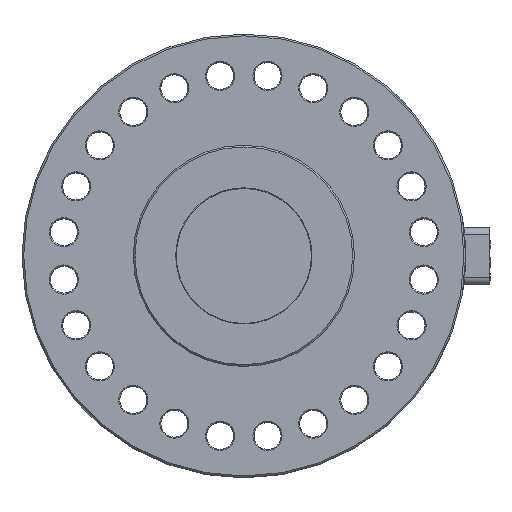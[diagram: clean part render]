
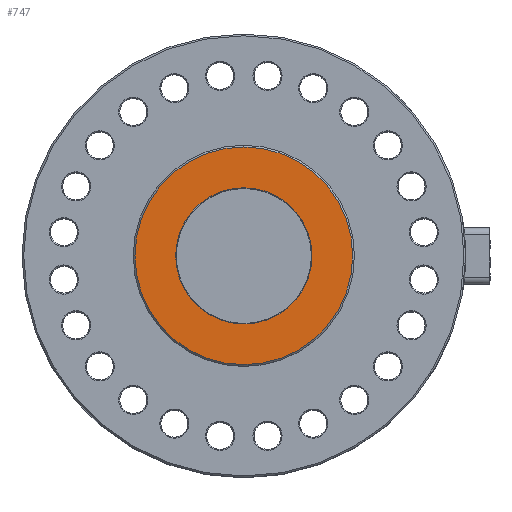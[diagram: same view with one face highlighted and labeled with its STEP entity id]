
A CAD part, top view. The second image highlights one B-rep face of the part: STEP entity #747.
In plain terms, the highlighted planar face has unit normal (0, 0, 1).
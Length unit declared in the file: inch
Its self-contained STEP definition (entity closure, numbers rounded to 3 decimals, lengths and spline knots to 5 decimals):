
#423 = ORIENTED_EDGE ( 'NONE', *, *, #4104, .F. ) ;
#484 = EDGE_LOOP ( 'NONE', ( #10435, #9887 ) ) ;
#747 = ADVANCED_FACE ( 'NONE', ( #7501, #7502 ), #7503, .F. ) ;
#789 = CARTESIAN_POINT ( 'NONE',  ( 0., -3.8035, 0.5 ) ) ;
#912 = CARTESIAN_POINT ( 'NONE',  ( 0., 3.8035, 0.5 ) ) ;
#1151 = ORIENTED_EDGE ( 'NONE', *, *, #6691, .F. ) ;
#1471 = CIRCLE ( 'NONE', #1472, 3.8035 ) ;
#1472 = AXIS2_PLACEMENT_3D ( 'NONE', #1473, #1474, #1475 ) ;
#1473 = CARTESIAN_POINT ( 'NONE',  ( 0., 0., 0.5 ) ) ;
#1474 = DIRECTION ( 'NONE',  ( 0., 0., -1. ) ) ;
#1475 = DIRECTION ( 'NONE',  ( 0., 1., 0. ) ) ;
#1703 = EDGE_LOOP ( 'NONE', ( #1151, #423 ) ) ;
#1953 = EDGE_CURVE ( 'NONE', #5508, #5537, #7941, .T. ) ;
#4104 = EDGE_CURVE ( 'NONE', #6613, #6656, #8947, .T. ) ;
#4813 = CARTESIAN_POINT ( 'NONE',  ( 2.38, 0., 0.5 ) ) ;
#4946 = CARTESIAN_POINT ( 'NONE',  ( -2.38, 0., 0.5 ) ) ;
#5508 = VERTEX_POINT ( 'NONE', #789 ) ;
#5537 = VERTEX_POINT ( 'NONE', #912 ) ;
#6613 = VERTEX_POINT ( 'NONE', #4813 ) ;
#6656 = VERTEX_POINT ( 'NONE', #4946 ) ;
#6691 = EDGE_CURVE ( 'NONE', #6656, #6613, #8692, .T. ) ;
#7501 = FACE_OUTER_BOUND ( 'NONE', #484, .T. ) ;
#7502 = FACE_BOUND ( 'NONE', #1703, .T. ) ;
#7503 = PLANE ( 'NONE',  #7504 ) ;
#7504 = AXIS2_PLACEMENT_3D ( 'NONE', #7505, #7506, #7507 ) ;
#7505 = CARTESIAN_POINT ( 'NONE',  ( 3.84914, -3.84914, 0.5 ) ) ;
#7506 = DIRECTION ( 'NONE',  ( 0., 0., -1. ) ) ;
#7507 = DIRECTION ( 'NONE',  ( -1., 0., 0. ) ) ;
#7941 = CIRCLE ( 'NONE', #7942, 3.8035 ) ;
#7942 = AXIS2_PLACEMENT_3D ( 'NONE', #7943, #7944, #7945 ) ;
#7943 = CARTESIAN_POINT ( 'NONE',  ( 0., 0., 0.5 ) ) ;
#7944 = DIRECTION ( 'NONE',  ( 0., 0., -1. ) ) ;
#7945 = DIRECTION ( 'NONE',  ( 0., 1., 0. ) ) ;
#8251 = EDGE_CURVE ( 'NONE', #5537, #5508, #1471, .T. ) ;
#8692 = CIRCLE ( 'NONE', #8693, 2.38 ) ;
#8693 = AXIS2_PLACEMENT_3D ( 'NONE', #8694, #8695, #8696 ) ;
#8694 = CARTESIAN_POINT ( 'NONE',  ( 0., 0., 0.5 ) ) ;
#8695 = DIRECTION ( 'NONE',  ( 0., 0., 1. ) ) ;
#8696 = DIRECTION ( 'NONE',  ( -1., 0., 0. ) ) ;
#8947 = CIRCLE ( 'NONE', #8948, 2.38 ) ;
#8948 = AXIS2_PLACEMENT_3D ( 'NONE', #8949, #8956, #8957 ) ;
#8949 = CARTESIAN_POINT ( 'NONE',  ( 0., 0., 0.5 ) ) ;
#8956 = DIRECTION ( 'NONE',  ( 0., 0., 1. ) ) ;
#8957 = DIRECTION ( 'NONE',  ( -1., 0., 0. ) ) ;
#9887 = ORIENTED_EDGE ( 'NONE', *, *, #1953, .F. ) ;
#10435 = ORIENTED_EDGE ( 'NONE', *, *, #8251, .F. ) ;
